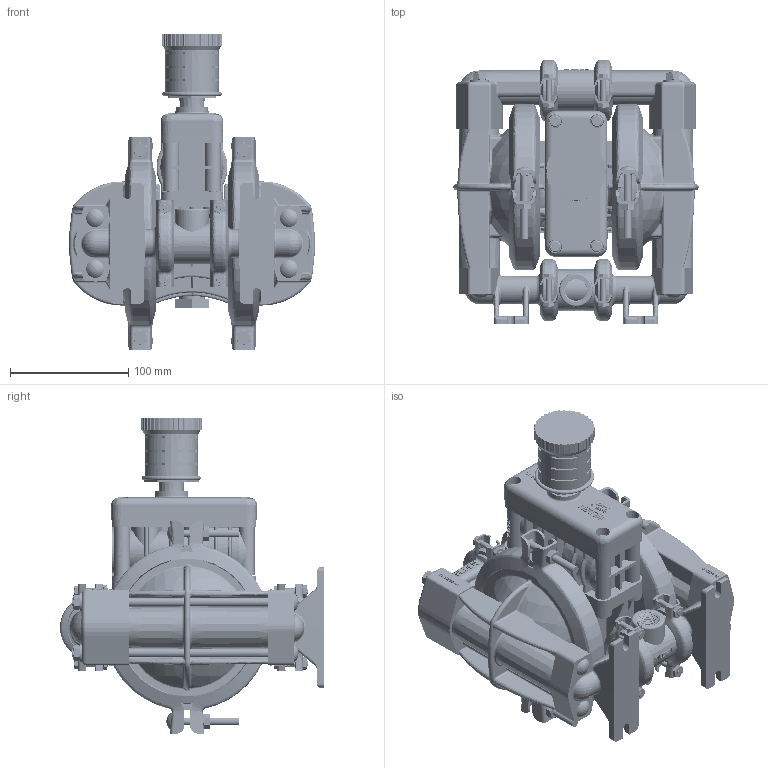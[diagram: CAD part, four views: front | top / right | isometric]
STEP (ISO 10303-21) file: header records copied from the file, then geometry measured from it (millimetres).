
FILE_DESCRIPTION (( 'STEP AP203' ), '1' );
FILE_NAME ('P1_METAL_AL_TOP.STEP', '2022-07-04T18:12:14', ( '' ), ( '' ), 'SwSTEP 2.0', 'SolidWorks 2019', '' );
FILE_SCHEMA (( 'CONFIG_CONTROL_DESIGN' ));
Products named in the file (1): P1_METAL_AL_TOP
Bounding box: 207.26 x 223.01 x 266.32 mm (x, y, z)
Volume: 2608221.2 mm3; surface area: 406568.8 mm2
Topology: 1 solids, 1 shells, 9470 faces, 25493 edges, 16289 vertices
Faces by surface type: plane 6413, bspline 1270, cylinder 1001, cone 452, torus 201, sphere 133
Entity records: 478885 total; most frequent: CARTESIAN_POINT 256730, ORIENTED_EDGE 50960, DIRECTION 38359, EDGE_CURVE 25480, VERTEX_POINT 16285, VECTOR 16157, LINE 16157, AXIS2_PLACEMENT_3D 11101
